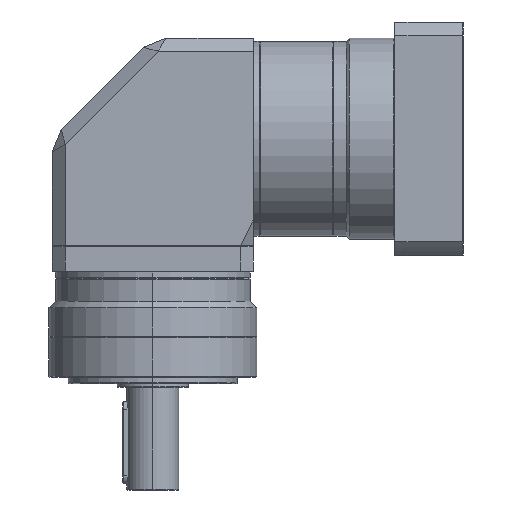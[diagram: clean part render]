
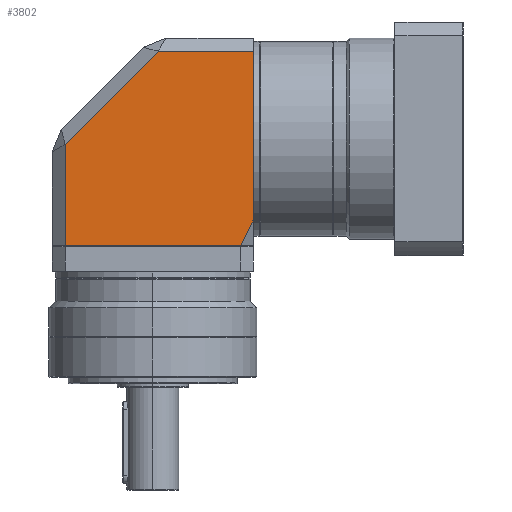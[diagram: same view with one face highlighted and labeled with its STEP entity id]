
A CAD part, left-side view. The second image highlights one B-rep face of the part: STEP entity #3802.
In plain terms, the highlighted planar face has unit normal (-1, 0, 0).
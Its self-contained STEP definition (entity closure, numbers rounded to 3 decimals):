
#38 = AXIS2_PLACEMENT_3D ( 'NONE', #7022, #2153, #468 ) ;
#172 = LINE ( 'NONE', #6958, #2726 ) ;
#301 = VERTEX_POINT ( 'NONE', #2783 ) ;
#468 = DIRECTION ( 'NONE',  ( 0., 0., -1. ) ) ;
#583 = LINE ( 'NONE', #6494, #2130 ) ;
#704 = EDGE_LOOP ( 'NONE', ( #6754, #5759, #5756, #2687, #6755, #1376 ) ) ;
#938 = CARTESIAN_POINT ( 'NONE',  ( -77.5, 67.5, 101.5 ) ) ;
#947 = VERTEX_POINT ( 'NONE', #3898 ) ;
#999 = VECTOR ( 'NONE', #6374, 1000. ) ;
#1055 = VECTOR ( 'NONE', #4128, 1000. ) ;
#1272 = VECTOR ( 'NONE', #6717, 1000. ) ;
#1322 = LINE ( 'NONE', #1352, #1055 ) ;
#1352 = CARTESIAN_POINT ( 'NONE',  ( -77.5, -133.5, 233. ) ) ;
#1376 = ORIENTED_EDGE ( 'NONE', *, *, #5404, .T. ) ;
#1501 = LINE ( 'NONE', #2896, #6010 ) ;
#1521 = LINE ( 'NONE', #2251, #1272 ) ;
#1962 = CARTESIAN_POINT ( 'NONE',  ( -77.5, 67.5, 261. ) ) ;
#2130 = VECTOR ( 'NONE', #2630, 1000. ) ;
#2153 = DIRECTION ( 'NONE',  ( 1., 0., 0. ) ) ;
#2251 = CARTESIAN_POINT ( 'NONE',  ( -77.5, 0., 251. ) ) ;
#2630 = DIRECTION ( 'NONE',  ( 0., 0.707, -0.707 ) ) ;
#2687 = ORIENTED_EDGE ( 'NONE', *, *, #4574, .F. ) ;
#2726 = VECTOR ( 'NONE', #3673, 1000. ) ;
#2783 = CARTESIAN_POINT ( 'NONE',  ( -77.5, 67.5, 179.358 ) ) ;
#2896 = CARTESIAN_POINT ( 'NONE',  ( -77.5, -77.5, 261. ) ) ;
#3392 = VERTEX_POINT ( 'NONE', #6584 ) ;
#3673 = DIRECTION ( 'NONE',  ( 0., -1., 0. ) ) ;
#3680 = EDGE_CURVE ( 'NONE', #3392, #4494, #1322, .T. ) ;
#3802 = ADVANCED_FACE ( 'NONE', ( #5224 ), #4352, .F. ) ;
#3898 = CARTESIAN_POINT ( 'NONE',  ( -77.5, -77.5, 251. ) ) ;
#4128 = DIRECTION ( 'NONE',  ( 0., 0.447, -0.894 ) ) ;
#4352 = PLANE ( 'NONE',  #38 ) ;
#4494 = VERTEX_POINT ( 'NONE', #6623 ) ;
#4574 = EDGE_CURVE ( 'NONE', #947, #3392, #1501, .T. ) ;
#4605 = DIRECTION ( 'NONE',  ( 0., 0., -1. ) ) ;
#4774 = VERTEX_POINT ( 'NONE', #938 ) ;
#4900 = LINE ( 'NONE', #1962, #999 ) ;
#5049 = CARTESIAN_POINT ( 'NONE',  ( -77.5, -4.142, 251. ) ) ;
#5224 = FACE_OUTER_BOUND ( 'NONE', #704, .T. ) ;
#5286 = EDGE_CURVE ( 'NONE', #4774, #4494, #172, .T. ) ;
#5404 = EDGE_CURVE ( 'NONE', #5728, #301, #583, .T. ) ;
#5728 = VERTEX_POINT ( 'NONE', #5049 ) ;
#5756 = ORIENTED_EDGE ( 'NONE', *, *, #3680, .F. ) ;
#5759 = ORIENTED_EDGE ( 'NONE', *, *, #5286, .T. ) ;
#6010 = VECTOR ( 'NONE', #4605, 1000. ) ;
#6374 = DIRECTION ( 'NONE',  ( 0., 0., -1. ) ) ;
#6441 = EDGE_CURVE ( 'NONE', #947, #5728, #1521, .T. ) ;
#6494 = CARTESIAN_POINT ( 'NONE',  ( -77.5, 70.429, 176.429 ) ) ;
#6584 = CARTESIAN_POINT ( 'NONE',  ( -77.5, -77.5, 121. ) ) ;
#6623 = CARTESIAN_POINT ( 'NONE',  ( -77.5, -67.75, 101.5 ) ) ;
#6680 = EDGE_CURVE ( 'NONE', #301, #4774, #4900, .T. ) ;
#6717 = DIRECTION ( 'NONE',  ( 0., 1., 0. ) ) ;
#6754 = ORIENTED_EDGE ( 'NONE', *, *, #6680, .T. ) ;
#6755 = ORIENTED_EDGE ( 'NONE', *, *, #6441, .T. ) ;
#6958 = CARTESIAN_POINT ( 'NONE',  ( -77.5, -77.5, 101.5 ) ) ;
#7022 = CARTESIAN_POINT ( 'NONE',  ( -77.5, -77.5, 261. ) ) ;
